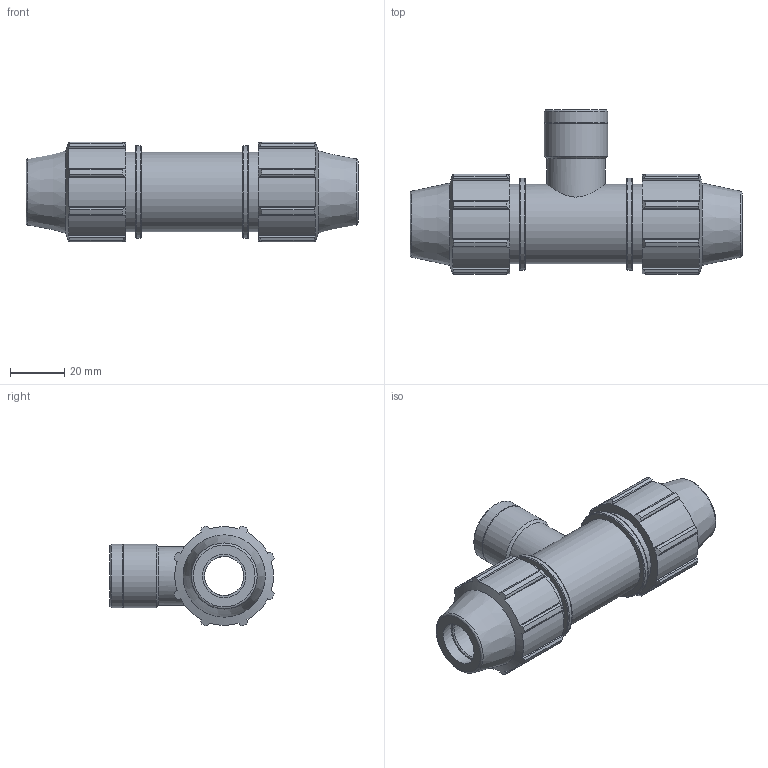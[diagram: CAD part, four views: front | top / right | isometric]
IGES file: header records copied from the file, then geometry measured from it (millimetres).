
Global section: file name: 071406016005__0714060160050A.ipt; native system: Autodesk Inventor 2015; preprocessor: unknown; author: KIM; date: 20170606.172202; units: millimetre
Bounding box: 122 x 60.35 x 36.7 mm (x, y, z)
Volume: 76693.2 mm3; surface area: 25286.6 mm2
Topology: 1 solids, 1 shells, 157 faces, 443 edges, 299 vertices
Faces by surface type: plane 79, cylinder 40, cone 23, revolution 15
Full cylindrical faces by diameter (mm): 21.426 x1, 23.289 x2, 29.25 x3, 33.93 x2
